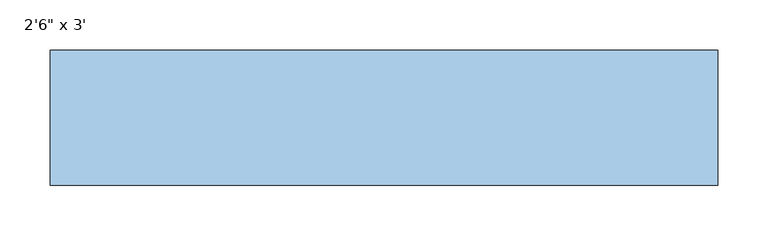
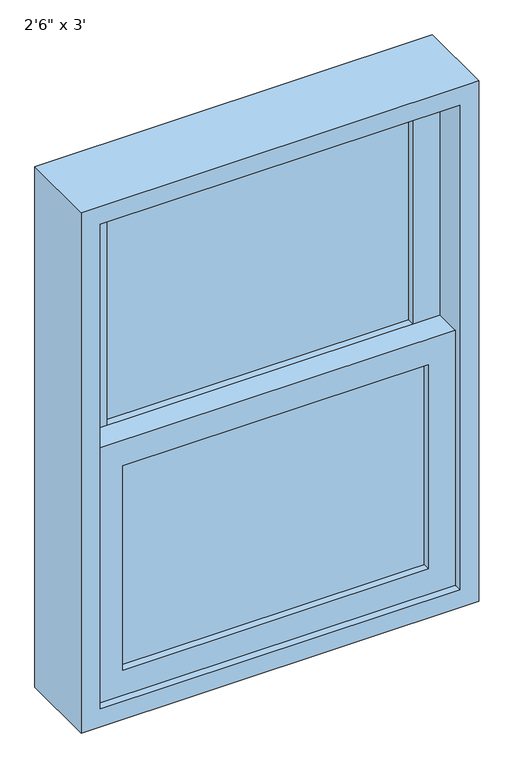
"""IFC4 building model written with IfcOpenShell, lengths in millimetres: window geometry."""

from ifc_helpers import new_model, si_unit, frame, origin, place, context, project, spatial, polyline, outline, extrude, source, transform, mapped, element, save


def window_480b3f3e(model_context):
    return source(origin(), model_context, "Body", "SweptSolid", [
        extrude(outline(polyline([(254.0, -12.7), (254.0, -19.05), (-254.0, -19.05), (-254.0, -12.7), (254.0, -12.7)])), frame((0.0, 0.0, 990.6), z_axis=(0.0, 0.0, 1.0), x_axis=(1.0, 0.0, 0.0)), (0.0, 0.0, 1.0), 358.775),
        extrude(outline(polyline([(-254.0, -25.4), (254.0, -25.4), (254.0, -31.75), (-254.0, -31.75), (-254.0, -25.4)])), frame((0.0, 0.0, 990.6), z_axis=(0.0, 0.0, 1.0), x_axis=(1.0, 0.0, 0.0)), (0.0, 0.0, 1.0), 358.775),
        extrude(outline(polyline([(254.0, 31.75), (254.0, 25.4), (-254.0, 25.4), (-254.0, 31.75), (254.0, 31.75)])), frame((0.0, 0.0, 1393.825), z_axis=(0.0, 0.0, 1.0), x_axis=(1.0, 0.0, 0.0)), (0.0, 0.0, 1.0), 358.775),
        extrude(outline(polyline([(-254.0, 19.05), (254.0, 19.05), (254.0, 12.7), (-254.0, 12.7), (-254.0, 19.05)])), frame((0.0, 0.0, 1393.825), z_axis=(0.0, 0.0, 1.0), x_axis=(1.0, 0.0, 0.0)), (0.0, 0.0, 1.0), 358.775),
        extrude(outline(polyline([(1393.825, -298.45), (946.15, -298.45), (946.15, 298.45), (1393.825, 298.45), (1393.825, -298.45)]), holes=[polyline([(1349.375, 254.0), (990.6, 254.0), (990.6, -254.0), (1349.375, -254.0), (1349.375, 254.0)])]), frame((0.0, -44.45, 0.0), z_axis=(0.0, 1.0, 0.0), x_axis=(0.0, 0.0, 1.0)), (0.0, 0.0, 1.0), 44.45),
        extrude(outline(polyline([(1797.05, -298.45), (1349.375, -298.45), (1349.375, 298.45), (1797.05, 298.45), (1797.05, -298.45)]), holes=[polyline([(1752.6, 254.0), (1393.825, 254.0), (1393.825, -254.0), (1752.6, -254.0), (1752.6, 254.0)])]), frame((0.0, 0.0, 0.0), z_axis=(0.0, 1.0, 0.0), x_axis=(0.0, 0.0, 1.0)), (0.0, 0.0, 1.0), 44.45),
        extrude(outline(polyline([(1828.8, -330.2), (914.4, -330.2), (914.4, 330.2), (1828.8, 330.2), (1828.8, -330.2)]), holes=[polyline([(1797.05, 298.45), (946.15, 298.45), (946.15, -298.45), (1797.05, -298.45), (1797.05, 298.45)])]), frame((0.0, -57.15, 0.0), z_axis=(0.0, 1.0, 0.0), x_axis=(0.0, 0.0, 1.0)), (0.0, 0.0, 1.0), 133.35),
    ])


if __name__ == "__main__":
    model = new_model("IFC4")
    model_context = context("Model", 3, world=origin())
    ifc_project = project(units=[si_unit("LENGTHUNIT", "METRE", prefix="MILLI")], contexts=[model_context])
    site = spatial("IfcSite", under=ifc_project)
    building = spatial("IfcBuilding", under=site)
    placement = place(None, origin())
    window_shape = window_480b3f3e(model_context)
    element("IfcWindow", 1, ObjectType="Planitar-Double-Hung-Single : 2'6\" x 3'", at=placement, inside=building, context=model_context, shape_type="MappedRepresentation", body=[
        mapped(window_shape, transform((0.0, 0.0, 0.0), x_axis=(1.0, 0.0, 0.0), y_axis=(0.0, 1.0, 0.0), z_axis=(0.0, 0.0, 1.0))),
    ])
    save(model, "model.ifc")
